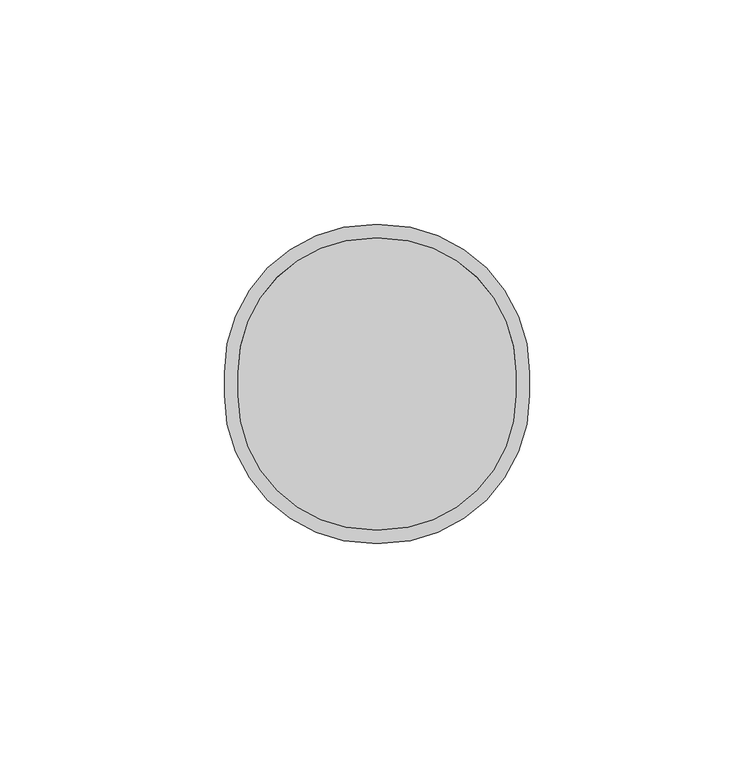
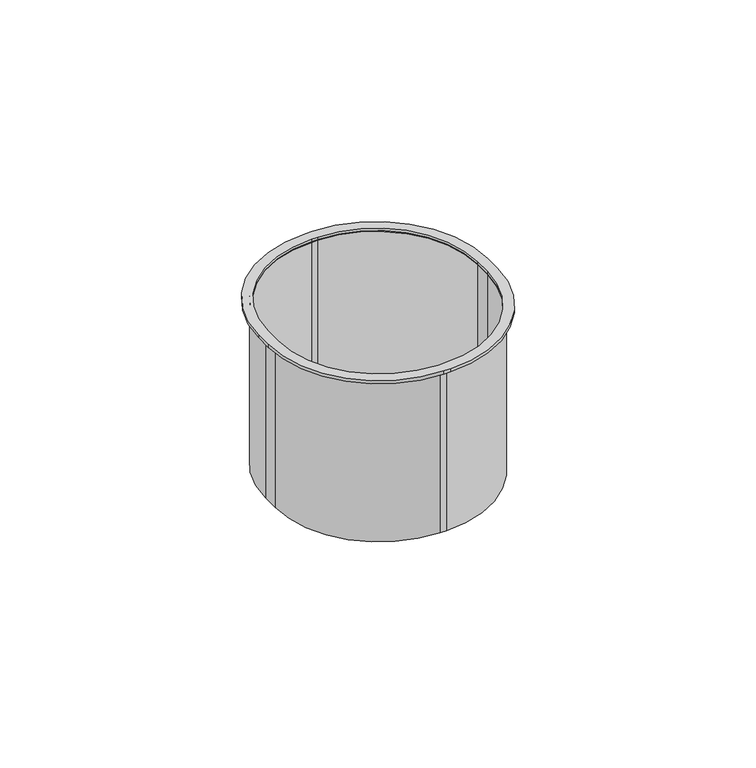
"""IFC4 building model written with IfcOpenShell, lengths in millimetres: proxy geometry, 00-Scatola da cartongesso : Scatola 2 moduli."""

from ifc_helpers import new_model, si_unit, point, frame, frame_2d, origin, origin_with_axes, place, context, project, spatial, polyline, circle_curve, trimmed, segment, composite_curve, outline, extrude, source, transform, mapped, element, save


def electrical_fixtures_f618ae87(model_context):
    return source(origin(), model_context, "Body", "SweptSolid", [
        extrude(outline(composite_curve([segment(trimmed(circle_curve(frame_2d((1.0, 2.5)), 30.0), [point((1.0, 32.5))], [point((31.0, 2.5))], False, "CARTESIAN"), True, "CONTINUOUS"), segment(polyline([(31.0, 2.5), (31.0, -2.5)]), True, "CONTINUOUS"), segment(trimmed(circle_curve(frame_2d((1.0, -2.5)), 30.0), [point((31.0, -2.5))], [point((1.0, -32.5))], False, "CARTESIAN"), True, "CONTINUOUS"), segment(polyline([(1.0, -32.5), (-1.0, -32.5)]), True, "CONTINUOUS"), segment(trimmed(circle_curve(frame_2d((-1.0, -2.5)), 30.0), [point((-1.0, -32.5))], [point((-31.0, -2.5))], False, "CARTESIAN"), True, "CONTINUOUS"), segment(polyline([(-31.0, -2.5), (-31.0, 2.5)]), True, "CONTINUOUS"), segment(trimmed(circle_curve(frame_2d((-1.0, 2.5)), 30.0), [point((-31.0, 2.5))], [point((-1.0, 32.5))], False, "CARTESIAN"), True, "CONTINUOUS"), segment(polyline([(-1.0, 32.5), (1.0, 32.5)]), True, "CONTINUOUS")], self_intersect=False)), frame((0.0, 0.0, -51.0), z_axis=(0.0, 0.0, 1.0), x_axis=(1.0, 0.0, 0.0)), (0.0, 0.0, 1.0), 1.0),
        extrude(outline(composite_curve([segment(trimmed(circle_curve(frame_2d((1.0, 2.5)), 31.0), [point((1.0, 33.5))], [point((32.0, 2.5))], False, "CARTESIAN"), True, "CONTINUOUS"), segment(polyline([(32.0, 2.5), (32.0, -2.5)]), True, "CONTINUOUS"), segment(trimmed(circle_curve(frame_2d((1.0, -2.5)), 31.0), [point((32.0, -2.5))], [point((1.0, -33.5))], False, "CARTESIAN"), True, "CONTINUOUS"), segment(polyline([(1.0, -33.5), (-1.0, -33.5)]), True, "CONTINUOUS"), segment(trimmed(circle_curve(frame_2d((-1.0, -2.5)), 31.0), [point((-1.0, -33.5))], [point((-32.0, -2.5))], False, "CARTESIAN"), True, "CONTINUOUS"), segment(polyline([(-32.0, -2.5), (-32.0, 2.5)]), True, "CONTINUOUS"), segment(trimmed(circle_curve(frame_2d((-1.0, 2.5)), 31.0), [point((-32.0, 2.5))], [point((-1.0, 33.5))], False, "CARTESIAN"), True, "CONTINUOUS"), segment(polyline([(-1.0, 33.5), (1.0, 33.5)]), True, "CONTINUOUS")], self_intersect=False), holes=[composite_curve([segment(polyline([(1.0, 32.5), (-1.0, 32.5)]), True, "CONTINUOUS"), segment(trimmed(circle_curve(frame_2d((-1.0, 2.5)), 30.0), [point((-1.0, 32.5))], [point((-31.0, 2.5))], True, "CARTESIAN"), True, "CONTINUOUS"), segment(polyline([(-31.0, 2.5), (-31.0, -2.5)]), True, "CONTINUOUS"), segment(trimmed(circle_curve(frame_2d((-1.0, -2.5)), 30.0), [point((-31.0, -2.5))], [point((-1.0, -32.5))], True, "CARTESIAN"), True, "CONTINUOUS"), segment(polyline([(-1.0, -32.5), (1.0, -32.5)]), True, "CONTINUOUS"), segment(trimmed(circle_curve(frame_2d((1.0, -2.5)), 30.0), [point((1.0, -32.5))], [point((31.0, -2.5))], True, "CARTESIAN"), True, "CONTINUOUS"), segment(polyline([(31.0, -2.5), (31.0, 2.5)]), True, "CONTINUOUS"), segment(trimmed(circle_curve(frame_2d((1.0, 2.5)), 30.0), [point((31.0, 2.5))], [point((1.0, 32.5))], True, "CARTESIAN"), True, "CONTINUOUS")], self_intersect=False)]), frame((0.0, 0.0, -51.0), z_axis=(0.0, 0.0, 1.0), x_axis=(1.0, 0.0, 0.0)), (0.0, 0.0, 1.0), 51.0),
        extrude(outline(composite_curve([segment(trimmed(circle_curve(frame_2d((1.0, 2.5)), 33.0), [point((1.0, 35.5))], [point((34.0, 2.5))], False, "CARTESIAN"), True, "CONTINUOUS"), segment(polyline([(34.0, 2.5), (34.0, -2.5)]), True, "CONTINUOUS"), segment(trimmed(circle_curve(frame_2d((1.0, -2.5)), 33.0), [point((34.0, -2.5))], [point((1.0, -35.5))], False, "CARTESIAN"), True, "CONTINUOUS"), segment(polyline([(1.0, -35.5), (-1.0, -35.5)]), True, "CONTINUOUS"), segment(trimmed(circle_curve(frame_2d((-1.0, -2.5)), 33.0), [point((-1.0, -35.5))], [point((-34.0, -2.5))], False, "CARTESIAN"), True, "CONTINUOUS"), segment(polyline([(-34.0, -2.5), (-34.0, 2.5)]), True, "CONTINUOUS"), segment(trimmed(circle_curve(frame_2d((-1.0, 2.5)), 33.0), [point((-34.0, 2.5))], [point((-1.0, 35.5))], False, "CARTESIAN"), True, "CONTINUOUS"), segment(polyline([(-1.0, 35.5), (1.0, 35.5)]), True, "CONTINUOUS")], self_intersect=False), holes=[composite_curve([segment(polyline([(1.0, 32.5), (-1.0, 32.5)]), True, "CONTINUOUS"), segment(trimmed(circle_curve(frame_2d((-1.0, 2.5)), 30.0), [point((-1.0, 32.5))], [point((-31.0, 2.5))], True, "CARTESIAN"), True, "CONTINUOUS"), segment(polyline([(-31.0, 2.5), (-31.0, -2.5)]), True, "CONTINUOUS"), segment(trimmed(circle_curve(frame_2d((-1.0, -2.5)), 30.0), [point((-31.0, -2.5))], [point((-1.0, -32.5))], True, "CARTESIAN"), True, "CONTINUOUS"), segment(polyline([(-1.0, -32.5), (1.0, -32.5)]), True, "CONTINUOUS"), segment(trimmed(circle_curve(frame_2d((1.0, -2.5)), 30.0), [point((1.0, -32.5))], [point((31.0, -2.5))], True, "CARTESIAN"), True, "CONTINUOUS"), segment(polyline([(31.0, -2.5), (31.0, 2.5)]), True, "CONTINUOUS"), segment(trimmed(circle_curve(frame_2d((1.0, 2.5)), 30.0), [point((31.0, 2.5))], [point((1.0, 32.5))], True, "CARTESIAN"), True, "CONTINUOUS")], self_intersect=False)]), origin_with_axes(), (0.0, 0.0, 1.0), 1.0),
    ])


if __name__ == "__main__":
    model = new_model("IFC4")
    model_context = context("Model", 3, world=origin())
    ifc_project = project(units=[si_unit("LENGTHUNIT", "METRE", prefix="MILLI")], contexts=[model_context])
    site = spatial("IfcSite", under=ifc_project)
    building = spatial("IfcBuilding", under=site)
    placement = place(None, origin())
    electrical_fixtures_shape = electrical_fixtures_f618ae87(model_context)
    element("IfcBuildingElementProxy", 1, Name="00-Scatola da cartongesso : Scatola 2 moduli", ObjectType="00-Scatola da cartongesso : Scatola 2 moduli", at=placement, inside=building, context=model_context, shape_type="MappedRepresentation", body=[
        mapped(electrical_fixtures_shape, transform((0.0, 0.0, 0.0), x_axis=(1.0, 0.0, 0.0), y_axis=(0.0, 1.0, 0.0), z_axis=(0.0, 0.0, 1.0))),
    ])
    save(model, "model.ifc")
